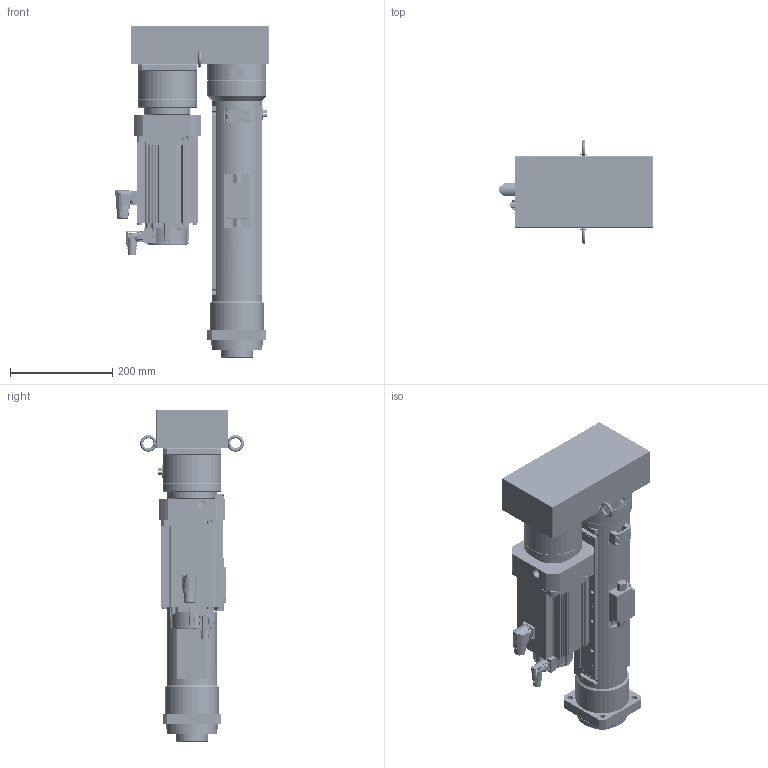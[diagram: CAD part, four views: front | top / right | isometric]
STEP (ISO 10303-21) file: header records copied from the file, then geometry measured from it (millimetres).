
FILE_DESCRIPTION( ('This file contains a STEP AP42 implementation' ,'as created by ZW3D STEP Interface translator.') ,'2;1' );
FILE_NAME( 'OACIS-DC-P025-P030-300-215-A6V400_V20.51.stp' ,'26 416.1425 5', (''), ('ZWCAD Software Co.'), 'Version 1.0', 'ZW3D to STEP translator', '' );
FILE_SCHEMA(('AUTOMOTIVE_DESIGN { 1 0 10303 214 1 1 1 1 }'));
Length unit declared in the file: millimetre
Products named in the file (1): 0
Bounding box: 299.5 x 202.6 x 648 mm (x, y, z)
Volume: 8791774.1 mm3; surface area: 1424975.8 mm2
Topology: 44 solids, 47 shells, 2324 faces, 5976 edges, 3980 vertices
Faces by surface type: plane 989, cylinder 963, cone 236, torus 91, bspline 25, sphere 20
Full cylindrical faces by diameter (mm): 1.25 x12, 1.6 x8, 2.232 x6, 2.459 x5, 2.75 x4, 2.8 x1, 3.2 x5, 3.3 x94, 4.2 x4, 4.3 x30, 4.5 x4, 5 x24, 5.5 x9, 6 x4, 6.6 x11, 6.647 x4, 6.8 x42, 7 x4, 8 x38, 8.4 x8, 8.5 x25, 9 x8, 9.5 x4, 10 x8, 10.106 x1, 11 x12, 12 x1, 13.4 x1, 15 x8, 15.5 x2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
Entity records: 79174 total; most frequent: CARTESIAN_POINT 18129, DIRECTION 12719, ORIENTED_EDGE 11672, EDGE_CURVE 5878, AXIS2_PLACEMENT_3D 4848, VERTEX_POINT 3914, VECTOR 3023, LINE 3023
